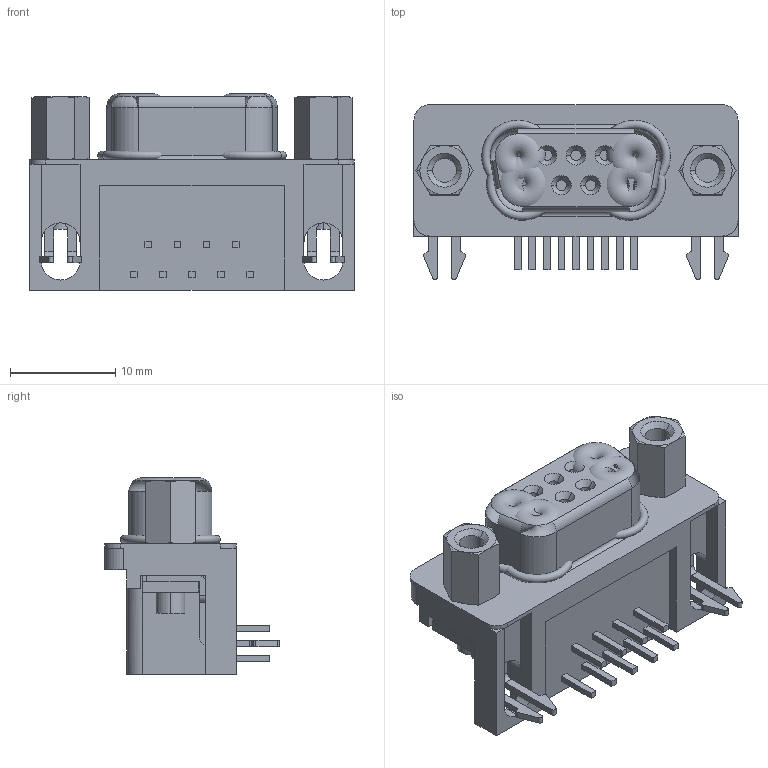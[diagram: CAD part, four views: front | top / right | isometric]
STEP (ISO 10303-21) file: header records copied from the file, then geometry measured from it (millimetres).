
FILE_DESCRIPTION (( 'STEP AP214' ), '1' );
FILE_NAME ('1734354-1.step', '2011-05-17T08:46:57', ( 'vpeshkov' ), ( 'licard' ), 'SwSTEP 2.0', 'SolidWorks 2009', '' );
FILE_SCHEMA (( 'AUTOMOTIVE_DESIGN' ));
Length unit declared in the file: millimetre
Products named in the file (1): 1734354-1
Bounding box: 30.8 x 16.6 x 18.67 mm (x, y, z)
Surface area: 3173.7 mm2 (no closed solid volume)
Topology: 0 solids, 1 shells, 384 faces, 1010 edges, 642 vertices
Faces by surface type: plane 239, cylinder 87, cone 50, torus 8
Entity records: 13840 total; most frequent: CARTESIAN_POINT 2169, ORIENTED_EDGE 1988, DIRECTION 1948, EDGE_CURVE 994, VECTOR 706, LINE 706, VERTEX_POINT 634, AXIS2_PLACEMENT_3D 621
